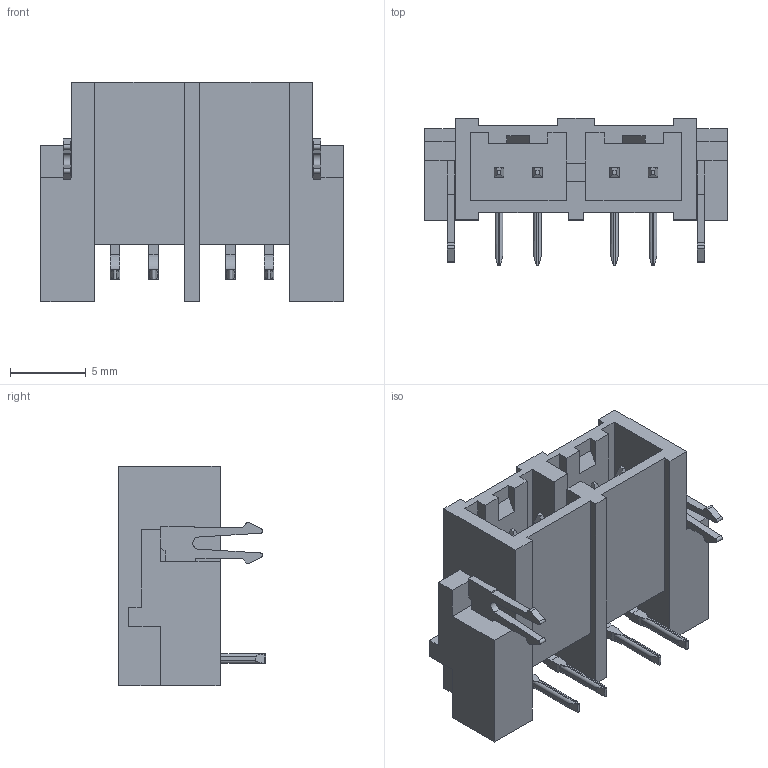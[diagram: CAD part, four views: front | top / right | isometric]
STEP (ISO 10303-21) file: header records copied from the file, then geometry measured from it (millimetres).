
FILE_DESCRIPTION (( 'STEP AP203' ), '1' );
FILE_NAME ('232D-04P1X2-L15A-FA.STEP', '2022-03-03T04:32:24', ( '' ), ( '' ), 'SwSTEP 2.0', 'SolidWorks 2018', '' );
FILE_SCHEMA (( 'CONFIG_CONTROL_DESIGN' ));
Length unit declared in the file: millimetre
Products named in the file (1): 232D-04P1X2-L15A-FA
Bounding box: 19.94 x 9.7 x 14.5 mm (x, y, z)
Volume: 893.2 mm3; surface area: 1502.9 mm2
Topology: 1 solids, 1 shells, 269 faces, 788 edges, 524 vertices
Faces by surface type: plane 209, cylinder 60
Entity records: 9011 total; most frequent: CARTESIAN_POINT 1918, ORIENTED_EDGE 1576, DIRECTION 1324, EDGE_CURVE 788, LINE 632, VECTOR 632, VERTEX_POINT 524, AXIS2_PLACEMENT_3D 346
